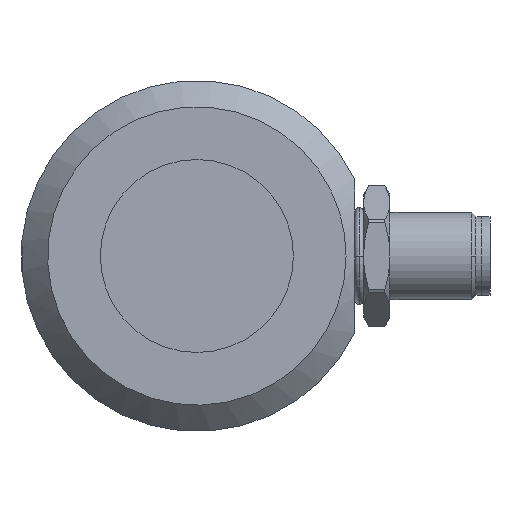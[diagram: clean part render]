
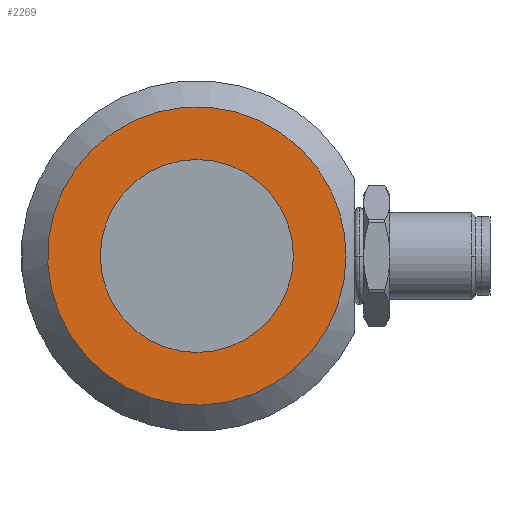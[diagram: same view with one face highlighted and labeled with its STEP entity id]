
A CAD part, left-side view. The second image highlights one B-rep face of the part: STEP entity #2269.
In plain terms, the highlighted planar face has unit normal (-1, 0, 0).
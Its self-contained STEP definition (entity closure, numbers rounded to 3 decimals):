
#614=PLANE('',#2422);
#692=VERTEX_POINT('',#3381);
#696=VERTEX_POINT('',#3395);
#863=CIRCLE('',#2418,8.5);
#866=CIRCLE('',#2423,5.5);
#1023=EDGE_CURVE('',#692,#692,#863,.T.);
#1029=EDGE_CURVE('',#696,#696,#866,.T.);
#1385=ORIENTED_EDGE('',*,*,#1029,.T.);
#1386=ORIENTED_EDGE('',*,*,#1023,.F.);
#1954=EDGE_LOOP('',(#1385));
#1955=EDGE_LOOP('',(#1386));
#2115=FACE_BOUND('',#1954,.T.);
#2116=FACE_BOUND('',#1955,.T.);
#2269=ADVANCED_FACE('',(#2115,#2116),#614,.F.);
#2418=AXIS2_PLACEMENT_3D('',#3380,#2672,#2673);
#2422=AXIS2_PLACEMENT_3D('',#3393,#2681,$);
#2423=AXIS2_PLACEMENT_3D('',#3394,#2682,#2683);
#2672=DIRECTION('',(1.,0.,0.));
#2673=DIRECTION('',(0.,8.5,0.));
#2681=DIRECTION('',(1.,0.,0.));
#2682=DIRECTION('',(1.,0.,0.));
#2683=DIRECTION('',(0.,0.,-5.5));
#3380=CARTESIAN_POINT('',(-9.,0.,0.));
#3381=CARTESIAN_POINT('',(-9.,-8.5,0.));
#3393=CARTESIAN_POINT('',(-9.,0.,0.));
#3394=CARTESIAN_POINT('',(-9.,0.,0.));
#3395=CARTESIAN_POINT('',(-9.,0.,-5.5));
